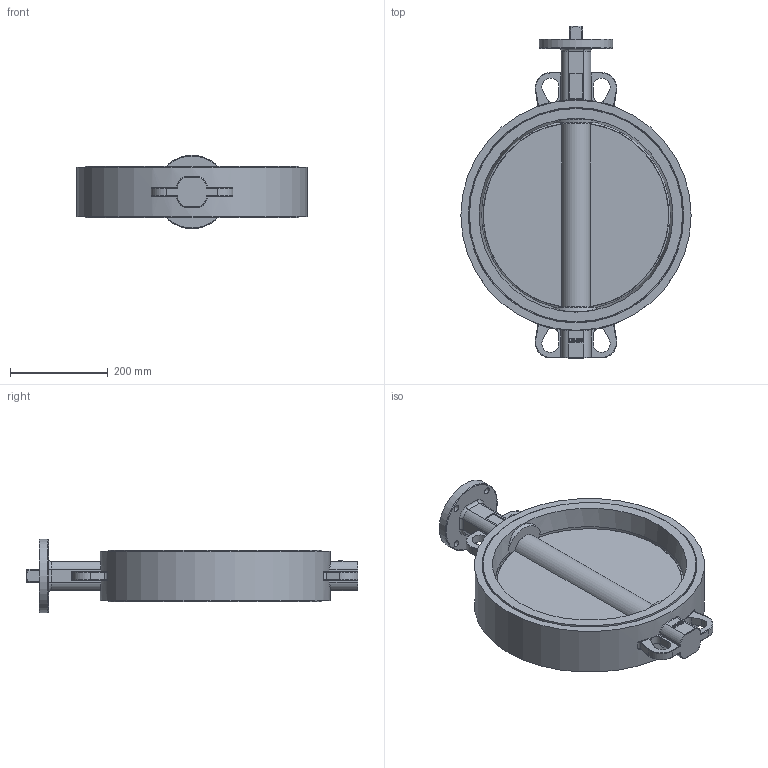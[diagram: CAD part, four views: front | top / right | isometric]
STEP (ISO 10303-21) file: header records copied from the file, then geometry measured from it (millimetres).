
FILE_DESCRIPTION (( 'STEP AP203' ), '1' );
FILE_NAME ('J9.DN400.STEP', '2013-01-17T07:33:39', ( 'luca.saino' ), ( 'Hewlett-Packard Company' ), 'SwSTEP 2.0', 'SolidWorks 2012', '' );
FILE_SCHEMA (( 'CONFIG_CONTROL_DESIGN' ));
Length unit declared in the file: millimetre
Products named in the file (1): J9.DN400
Bounding box: 471 x 679 x 150 mm (x, y, z)
Volume: 9261436.9 mm3; surface area: 746178.9 mm2
Topology: 1 solids, 4 shells, 352 faces, 899 edges, 541 vertices
Faces by surface type: plane 119, cylinder 94, bspline 61, torus 53, cone 18, sphere 7
Full cylindrical faces by diameter (mm): 13 x4, 48 x1, 50.5 x1, 150 x1, 436.2 x2, 438.9 x2, 471 x1
Entity records: 13990 total; most frequent: CARTESIAN_POINT 6125, ORIENTED_EDGE 1682, DIRECTION 1504, EDGE_CURVE 841, AXIS2_PLACEMENT_3D 584, VERTEX_POINT 530, EDGE_LOOP 401, FACE_OUTER_BOUND 364
